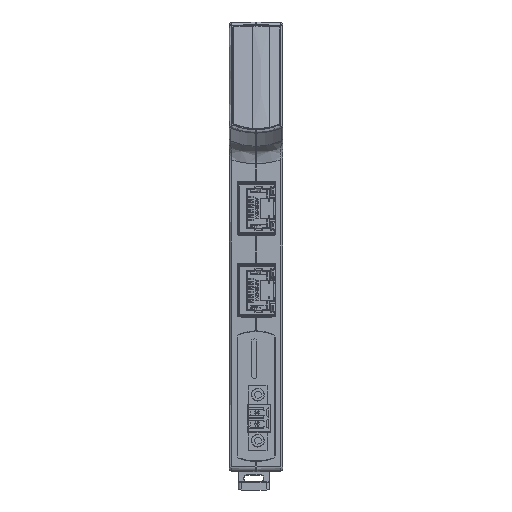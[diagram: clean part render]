
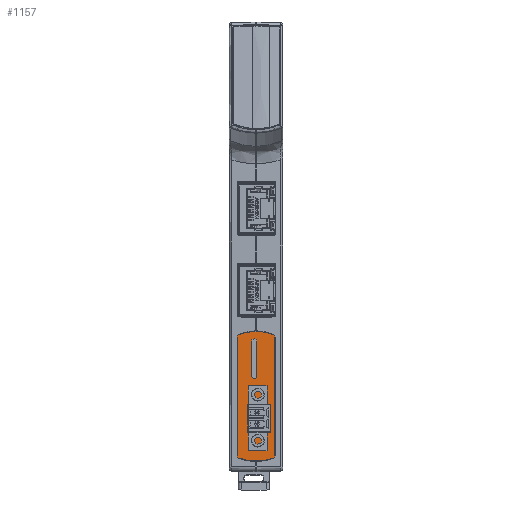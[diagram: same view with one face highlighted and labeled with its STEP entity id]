
A CAD part, front view. The second image highlights one B-rep face of the part: STEP entity #1157.
In plain terms, the highlighted planar face has unit normal (0, -1, 0).
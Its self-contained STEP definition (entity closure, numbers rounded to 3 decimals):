
#80=FACE_BOUND('',#14247,.T.);
#81=FACE_BOUND('',#14248,.T.);
#1157=ADVANCED_FACE('',(#7701,#80,#81),#107683,.T.);
#7701=FACE_OUTER_BOUND('',#14246,.T.);
#14246=EDGE_LOOP('',(#22201,#22202,#22203,#22204,#22205,#22206,#22207,#22208));
#14247=EDGE_LOOP('',(#22209,#22210,#22211,#22212));
#14248=EDGE_LOOP('',(#22213,#22214,#22215,#22216,#22217));
#22201=ORIENTED_EDGE('',*,*,#58350,.T.);
#22202=ORIENTED_EDGE('',*,*,#58326,.F.);
#22203=ORIENTED_EDGE('',*,*,#58330,.F.);
#22204=ORIENTED_EDGE('',*,*,#58333,.F.);
#22205=ORIENTED_EDGE('',*,*,#58336,.F.);
#22206=ORIENTED_EDGE('',*,*,#58339,.F.);
#22207=ORIENTED_EDGE('',*,*,#58342,.F.);
#22208=ORIENTED_EDGE('',*,*,#58345,.F.);
#22209=ORIENTED_EDGE('',*,*,#58346,.T.);
#22210=ORIENTED_EDGE('',*,*,#58347,.T.);
#22211=ORIENTED_EDGE('',*,*,#58348,.T.);
#22212=ORIENTED_EDGE('',*,*,#58349,.T.);
#22213=ORIENTED_EDGE('',*,*,#58386,.T.);
#22214=ORIENTED_EDGE('',*,*,#58385,.T.);
#22215=ORIENTED_EDGE('',*,*,#58384,.T.);
#22216=ORIENTED_EDGE('',*,*,#58388,.T.);
#22217=ORIENTED_EDGE('',*,*,#58387,.T.);
#58326=EDGE_CURVE('',#95790,#95791,#92960,.T.);
#58330=EDGE_CURVE('',#95793,#95790,#92962,.T.);
#58333=EDGE_CURVE('',#95795,#95793,#92964,.T.);
#58336=EDGE_CURVE('',#95797,#95795,#77014,.T.);
#58339=EDGE_CURVE('',#95799,#95797,#92966,.T.);
#58342=EDGE_CURVE('',#95801,#95799,#92968,.T.);
#58345=EDGE_CURVE('',#95803,#95801,#92970,.T.);
#58346=EDGE_CURVE('',#95804,#95805,#77018,.T.);
#58347=EDGE_CURVE('',#95805,#95806,#77019,.T.);
#58348=EDGE_CURVE('',#95806,#95807,#77020,.T.);
#58349=EDGE_CURVE('',#95807,#95804,#77021,.T.);
#58350=EDGE_CURVE('',#95803,#95791,#77022,.T.);
#58384=EDGE_CURVE('',#95828,#95829,#92983,.T.);
#58385=EDGE_CURVE('',#95830,#95828,#77044,.T.);
#58386=EDGE_CURVE('',#95831,#95830,#92984,.T.);
#58387=EDGE_CURVE('',#95832,#95831,#77045,.T.);
#58388=EDGE_CURVE('',#95829,#95832,#92985,.T.);
#77014=B_SPLINE_CURVE_WITH_KNOTS('',1,(#135320,#135321),.UNSPECIFIED.,.F.,
 .F.,(2,2),(-36.808,0.),.UNSPECIFIED.);
#77018=B_SPLINE_CURVE_WITH_KNOTS('',1,(#135346,#135347),.UNSPECIFIED.,.F.,
 .F.,(2,2),(-8.707,0.),.UNSPECIFIED.);
#77019=B_SPLINE_CURVE_WITH_KNOTS('',1,(#135348,#135349),.UNSPECIFIED.,.F.,
 .F.,(2,2),(-7.158,0.),.UNSPECIFIED.);
#77020=B_SPLINE_CURVE_WITH_KNOTS('',1,(#135350,#135351),.UNSPECIFIED.,.F.,
 .F.,(2,2),(0.,8.707),.UNSPECIFIED.);
#77021=B_SPLINE_CURVE_WITH_KNOTS('',1,(#135352,#135353),.UNSPECIFIED.,.F.,
 .F.,(2,2),(-7.158,0.),.UNSPECIFIED.);
#77022=B_SPLINE_CURVE_WITH_KNOTS('',1,(#135354,#135355),.UNSPECIFIED.,.F.,
 .F.,(2,2),(0.,36.853),.UNSPECIFIED.);
#77044=B_SPLINE_CURVE_WITH_KNOTS('',1,(#135437,#135438),.UNSPECIFIED.,.F.,
 .F.,(2,2),(-6.611,-0.765),.UNSPECIFIED.);
#77045=B_SPLINE_CURVE_WITH_KNOTS('',1,(#135444,#135445),.UNSPECIFIED.,.F.,
 .F.,(2,2),(-13.987,-8.141),.UNSPECIFIED.);
#92960=(
BOUNDED_CURVE()
B_SPLINE_CURVE(2,(#135295,#135296,#135297),.UNSPECIFIED.,.F.,.F.)
B_SPLINE_CURVE_WITH_KNOTS((3,3),(-1.047,0.),.UNSPECIFIED.)
CURVE()
GEOMETRIC_REPRESENTATION_ITEM()
RATIONAL_B_SPLINE_CURVE((1.,0.809,1.))
REPRESENTATION_ITEM('')
);
#92962=(
BOUNDED_CURVE()
B_SPLINE_CURVE(2,(#135305,#135306,#135307),.UNSPECIFIED.,.F.,.F.)
B_SPLINE_CURVE_WITH_KNOTS((3,3),(-10.875,0.),.UNSPECIFIED.)
CURVE()
GEOMETRIC_REPRESENTATION_ITEM()
RATIONAL_B_SPLINE_CURVE((1.,0.951,1.))
REPRESENTATION_ITEM('')
);
#92964=(
BOUNDED_CURVE()
B_SPLINE_CURVE(2,(#135313,#135314,#135315),.UNSPECIFIED.,.F.,.F.)
B_SPLINE_CURVE_WITH_KNOTS((3,3),(-1.047,0.),.UNSPECIFIED.)
CURVE()
GEOMETRIC_REPRESENTATION_ITEM()
RATIONAL_B_SPLINE_CURVE((1.,0.809,1.))
REPRESENTATION_ITEM('')
);
#92966=(
BOUNDED_CURVE()
B_SPLINE_CURVE(2,(#135327,#135328,#135329),.UNSPECIFIED.,.F.,.F.)
B_SPLINE_CURVE_WITH_KNOTS((3,3),(-0.988,0.),.UNSPECIFIED.)
CURVE()
GEOMETRIC_REPRESENTATION_ITEM()
RATIONAL_B_SPLINE_CURVE((1.,0.83,1.))
REPRESENTATION_ITEM('')
);
#92968=(
BOUNDED_CURVE()
B_SPLINE_CURVE(2,(#135335,#135336,#135337),.UNSPECIFIED.,.F.,.F.)
B_SPLINE_CURVE_WITH_KNOTS((3,3),(-11.065,0.),.UNSPECIFIED.)
CURVE()
GEOMETRIC_REPRESENTATION_ITEM()
RATIONAL_B_SPLINE_CURVE((1.,0.928,1.))
REPRESENTATION_ITEM('')
);
#92970=(
BOUNDED_CURVE()
B_SPLINE_CURVE(2,(#135343,#135344,#135345),.UNSPECIFIED.,.F.,.F.)
B_SPLINE_CURVE_WITH_KNOTS((3,3),(-0.996,0.),.UNSPECIFIED.)
CURVE()
GEOMETRIC_REPRESENTATION_ITEM()
RATIONAL_B_SPLINE_CURVE((1.,0.827,1.))
REPRESENTATION_ITEM('')
);
#92983=(
BOUNDED_CURVE()
B_SPLINE_CURVE(2,(#135434,#135435,#135436),.UNSPECIFIED.,.F.,.F.)
B_SPLINE_CURVE_WITH_KNOTS((3,3),(-0.765,0.),.UNSPECIFIED.)
CURVE()
GEOMETRIC_REPRESENTATION_ITEM()
RATIONAL_B_SPLINE_CURVE((1.,0.707,1.))
REPRESENTATION_ITEM('')
);
#92984=(
BOUNDED_CURVE()
B_SPLINE_CURVE(2,(#135439,#135440,#135441,#135442,#135443),
 .UNSPECIFIED.,.F.,.F.)
B_SPLINE_CURVE_WITH_KNOTS((3,2,3),(-8.141,-7.376,
-6.611),.UNSPECIFIED.)
CURVE()
GEOMETRIC_REPRESENTATION_ITEM()
RATIONAL_B_SPLINE_CURVE((1.,0.707,1.,0.707,1.))
REPRESENTATION_ITEM('')
);
#92985=(
BOUNDED_CURVE()
B_SPLINE_CURVE(2,(#135446,#135447,#135448),.UNSPECIFIED.,.F.,.F.)
B_SPLINE_CURVE_WITH_KNOTS((3,3),(-14.752,-13.987),
 .UNSPECIFIED.)
CURVE()
GEOMETRIC_REPRESENTATION_ITEM()
RATIONAL_B_SPLINE_CURVE((1.,0.707,1.))
REPRESENTATION_ITEM('')
);
#95790=VERTEX_POINT('',#135242);
#95791=VERTEX_POINT('',#135243);
#95793=VERTEX_POINT('',#135245);
#95795=VERTEX_POINT('',#135247);
#95797=VERTEX_POINT('',#135249);
#95799=VERTEX_POINT('',#135251);
#95801=VERTEX_POINT('',#135253);
#95803=VERTEX_POINT('',#135255);
#95804=VERTEX_POINT('',#135256);
#95805=VERTEX_POINT('',#135257);
#95806=VERTEX_POINT('',#135258);
#95807=VERTEX_POINT('',#135259);
#95828=VERTEX_POINT('',#135280);
#95829=VERTEX_POINT('',#135281);
#95830=VERTEX_POINT('',#135282);
#95831=VERTEX_POINT('',#135283);
#95832=VERTEX_POINT('',#135284);
#107683=PLANE('',#114048);
#114048=AXIS2_PLACEMENT_3D('',#135099,#118859,$);
#118859=DIRECTION('',(0.,-1.,0.));
#135099=CARTESIAN_POINT('',(-7.138,17.702,3.969));
#135242=CARTESIAN_POINT('',(-5.377,17.702,9.949));
#135243=CARTESIAN_POINT('',(-5.953,17.702,10.742));
#135245=CARTESIAN_POINT('',(5.318,17.702,9.949));
#135247=CARTESIAN_POINT('',(5.893,17.702,10.742));
#135249=CARTESIAN_POINT('',(5.893,17.702,47.55));
#135251=CARTESIAN_POINT('',(5.373,17.702,48.322));
#135253=CARTESIAN_POINT('',(-5.426,17.702,48.37));
#135255=CARTESIAN_POINT('',(-5.953,17.702,47.595));
#135256=CARTESIAN_POINT('',(-2.666,17.702,18.01));
#135257=CARTESIAN_POINT('',(-2.666,17.702,26.718));
#135258=CARTESIAN_POINT('',(4.492,17.702,26.718));
#135259=CARTESIAN_POINT('',(4.492,17.702,18.01));
#135280=CARTESIAN_POINT('',(0.247,17.702,35.614));
#135281=CARTESIAN_POINT('',(-0.636,17.702,34.731));
#135282=CARTESIAN_POINT('',(0.247,17.702,46.206));
#135283=CARTESIAN_POINT('',(-1.518,17.702,46.206));
#135284=CARTESIAN_POINT('',(-1.518,17.702,35.614));
#135295=CARTESIAN_POINT('',(-5.377,17.702,9.949));
#135296=CARTESIAN_POINT('',(-5.953,17.702,10.137));
#135297=CARTESIAN_POINT('',(-5.953,17.702,10.742));
#135305=CARTESIAN_POINT('',(5.318,17.702,9.949));
#135306=CARTESIAN_POINT('',(-0.03,17.702,8.201));
#135307=CARTESIAN_POINT('',(-5.377,17.702,9.949));
#135313=CARTESIAN_POINT('',(5.893,17.702,10.742));
#135314=CARTESIAN_POINT('',(5.893,17.702,10.137));
#135315=CARTESIAN_POINT('',(5.318,17.702,9.949));
#135320=CARTESIAN_POINT('',(5.893,17.702,47.55));
#135321=CARTESIAN_POINT('',(5.893,17.702,10.742));
#135327=CARTESIAN_POINT('',(5.373,17.702,48.322));
#135328=CARTESIAN_POINT('',(5.893,17.702,48.111));
#135329=CARTESIAN_POINT('',(5.893,17.702,47.55));
#135335=CARTESIAN_POINT('',(-5.426,17.702,48.37));
#135336=CARTESIAN_POINT('',(-0.017,17.702,50.514));
#135337=CARTESIAN_POINT('',(5.373,17.702,48.322));
#135343=CARTESIAN_POINT('',(-5.953,17.702,47.595));
#135344=CARTESIAN_POINT('',(-5.953,17.702,48.162));
#135345=CARTESIAN_POINT('',(-5.426,17.702,48.37));
#135346=CARTESIAN_POINT('',(-2.666,17.702,18.01));
#135347=CARTESIAN_POINT('',(-2.666,17.702,26.718));
#135348=CARTESIAN_POINT('',(-2.666,17.702,26.718));
#135349=CARTESIAN_POINT('',(4.492,17.702,26.718));
#135350=CARTESIAN_POINT('',(4.492,17.702,26.718));
#135351=CARTESIAN_POINT('',(4.492,17.702,18.01));
#135352=CARTESIAN_POINT('',(4.492,17.702,18.01));
#135353=CARTESIAN_POINT('',(-2.666,17.702,18.01));
#135354=CARTESIAN_POINT('',(-5.953,17.702,47.595));
#135355=CARTESIAN_POINT('',(-5.953,17.702,10.742));
#135434=CARTESIAN_POINT('',(0.247,17.702,35.614));
#135435=CARTESIAN_POINT('',(0.247,17.702,34.731));
#135436=CARTESIAN_POINT('',(-0.636,17.702,34.731));
#135437=CARTESIAN_POINT('',(0.247,17.702,46.206));
#135438=CARTESIAN_POINT('',(0.247,17.702,35.614));
#135439=CARTESIAN_POINT('',(-1.518,17.702,46.206));
#135440=CARTESIAN_POINT('',(-1.518,17.702,47.089));
#135441=CARTESIAN_POINT('',(-0.636,17.702,47.089));
#135442=CARTESIAN_POINT('',(0.247,17.702,47.089));
#135443=CARTESIAN_POINT('',(0.247,17.702,46.206));
#135444=CARTESIAN_POINT('',(-1.518,17.702,35.614));
#135445=CARTESIAN_POINT('',(-1.518,17.702,46.206));
#135446=CARTESIAN_POINT('',(-0.636,17.702,34.731));
#135447=CARTESIAN_POINT('',(-1.518,17.702,34.731));
#135448=CARTESIAN_POINT('',(-1.518,17.702,35.614));
